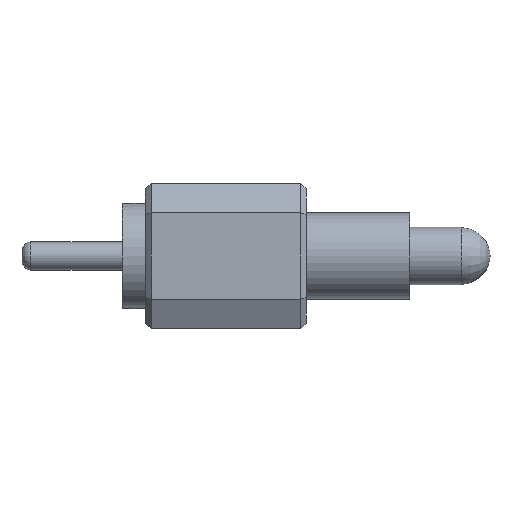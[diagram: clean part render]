
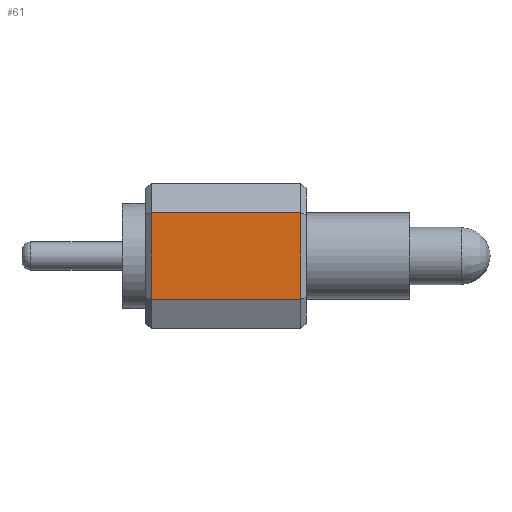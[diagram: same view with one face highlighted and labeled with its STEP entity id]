
A CAD part, front view. The second image highlights one B-rep face of the part: STEP entity #61.
In plain terms, the highlighted planar face has unit normal (0, -1, 0).
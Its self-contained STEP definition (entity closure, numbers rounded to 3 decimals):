
#61 = ADVANCED_FACE('',(#62),#76,.F.);
#62 = FACE_BOUND('',#63,.F.);
#63 = EDGE_LOOP('',(#64,#99,#127,#155));
#64 = ORIENTED_EDGE('',*,*,#65,.T.);
#65 = EDGE_CURVE('',#66,#68,#70,.T.);
#66 = VERTEX_POINT('',#67);
#67 = CARTESIAN_POINT('',(0.5,-1.27,0.75));
#68 = VERTEX_POINT('',#69);
#69 = CARTESIAN_POINT('',(3.1,-1.27,0.75));
#70 = SURFACE_CURVE('',#71,(#75,#87),.PCURVE_S1.);
#71 = LINE('',#72,#73);
#72 = CARTESIAN_POINT('',(0.4,-1.27,0.75));
#73 = VECTOR('',#74,1.);
#74 = DIRECTION('',(1.,0.,0.));
#75 = PCURVE('',#76,#81);
#76 = PLANE('',#77);
#77 = AXIS2_PLACEMENT_3D('',#78,#79,#80);
#78 = CARTESIAN_POINT('',(0.4,-1.27,0.75));
#79 = DIRECTION('',(0.,1.,0.));
#80 = DIRECTION('',(0.,0.,-1.));
#81 = DEFINITIONAL_REPRESENTATION('',(#82),#86);
#82 = LINE('',#83,#84);
#83 = CARTESIAN_POINT('',(0.,0.));
#84 = VECTOR('',#85,1.);
#85 = DIRECTION('',(0.,-1.));
#86 = ( GEOMETRIC_REPRESENTATION_CONTEXT(2) 
PARAMETRIC_REPRESENTATION_CONTEXT() REPRESENTATION_CONTEXT('2D SPACE',''
  ) );
#87 = PCURVE('',#88,#93);
#88 = PLANE('',#89);
#89 = AXIS2_PLACEMENT_3D('',#90,#91,#92);
#90 = CARTESIAN_POINT('',(0.4,-1.,1.27));
#91 = DIRECTION('',(0.,0.887,-0.461));
#92 = DIRECTION('',(0.,-0.461,-0.887));
#93 = DEFINITIONAL_REPRESENTATION('',(#94),#98);
#94 = LINE('',#95,#96);
#95 = CARTESIAN_POINT('',(0.586,0.));
#96 = VECTOR('',#97,1.);
#97 = DIRECTION('',(0.,-1.));
#98 = ( GEOMETRIC_REPRESENTATION_CONTEXT(2) 
PARAMETRIC_REPRESENTATION_CONTEXT() REPRESENTATION_CONTEXT('2D SPACE',''
  ) );
#99 = ORIENTED_EDGE('',*,*,#100,.T.);
#100 = EDGE_CURVE('',#68,#101,#103,.T.);
#101 = VERTEX_POINT('',#102);
#102 = CARTESIAN_POINT('',(3.1,-1.27,-0.75));
#103 = SURFACE_CURVE('',#104,(#108,#115),.PCURVE_S1.);
#104 = LINE('',#105,#106);
#105 = CARTESIAN_POINT('',(3.1,-1.27,0.75));
#106 = VECTOR('',#107,1.);
#107 = DIRECTION('',(0.,0.,-1.));
#108 = PCURVE('',#76,#109);
#109 = DEFINITIONAL_REPRESENTATION('',(#110),#114);
#110 = LINE('',#111,#112);
#111 = CARTESIAN_POINT('',(0.,-2.7));
#112 = VECTOR('',#113,1.);
#113 = DIRECTION('',(1.,0.));
#114 = ( GEOMETRIC_REPRESENTATION_CONTEXT(2) 
PARAMETRIC_REPRESENTATION_CONTEXT() REPRESENTATION_CONTEXT('2D SPACE',''
  ) );
#115 = PCURVE('',#116,#121);
#116 = PLANE('',#117);
#117 = AXIS2_PLACEMENT_3D('',#118,#119,#120);
#118 = CARTESIAN_POINT('',(3.15,-1.22,0.75));
#119 = DIRECTION('',(-0.707,0.707,0.));
#120 = DIRECTION('',(0.,0.,1.));
#121 = DEFINITIONAL_REPRESENTATION('',(#122),#126);
#122 = LINE('',#123,#124);
#123 = CARTESIAN_POINT('',(0.,-0.071));
#124 = VECTOR('',#125,1.);
#125 = DIRECTION('',(-1.,0.));
#126 = ( GEOMETRIC_REPRESENTATION_CONTEXT(2) 
PARAMETRIC_REPRESENTATION_CONTEXT() REPRESENTATION_CONTEXT('2D SPACE',''
  ) );
#127 = ORIENTED_EDGE('',*,*,#128,.F.);
#128 = EDGE_CURVE('',#129,#101,#131,.T.);
#129 = VERTEX_POINT('',#130);
#130 = CARTESIAN_POINT('',(0.5,-1.27,-0.75));
#131 = SURFACE_CURVE('',#132,(#136,#143),.PCURVE_S1.);
#132 = LINE('',#133,#134);
#133 = CARTESIAN_POINT('',(0.4,-1.27,-0.75));
#134 = VECTOR('',#135,1.);
#135 = DIRECTION('',(1.,0.,0.));
#136 = PCURVE('',#76,#137);
#137 = DEFINITIONAL_REPRESENTATION('',(#138),#142);
#138 = LINE('',#139,#140);
#139 = CARTESIAN_POINT('',(1.5,0.));
#140 = VECTOR('',#141,1.);
#141 = DIRECTION('',(0.,-1.));
#142 = ( GEOMETRIC_REPRESENTATION_CONTEXT(2) 
PARAMETRIC_REPRESENTATION_CONTEXT() REPRESENTATION_CONTEXT('2D SPACE',''
  ) );
#143 = PCURVE('',#144,#149);
#144 = PLANE('',#145);
#145 = AXIS2_PLACEMENT_3D('',#146,#147,#148);
#146 = CARTESIAN_POINT('',(0.4,-1.27,-0.75));
#147 = DIRECTION('',(0.,0.887,0.461));
#148 = DIRECTION('',(0.,0.461,-0.887));
#149 = DEFINITIONAL_REPRESENTATION('',(#150),#154);
#150 = LINE('',#151,#152);
#151 = CARTESIAN_POINT('',(0.,0.));
#152 = VECTOR('',#153,1.);
#153 = DIRECTION('',(0.,-1.));
#154 = ( GEOMETRIC_REPRESENTATION_CONTEXT(2) 
PARAMETRIC_REPRESENTATION_CONTEXT() REPRESENTATION_CONTEXT('2D SPACE',''
  ) );
#155 = ORIENTED_EDGE('',*,*,#156,.F.);
#156 = EDGE_CURVE('',#66,#129,#157,.T.);
#157 = SURFACE_CURVE('',#158,(#162,#169),.PCURVE_S1.);
#158 = LINE('',#159,#160);
#159 = CARTESIAN_POINT('',(0.5,-1.27,0.75));
#160 = VECTOR('',#161,1.);
#161 = DIRECTION('',(0.,0.,-1.));
#162 = PCURVE('',#76,#163);
#163 = DEFINITIONAL_REPRESENTATION('',(#164),#168);
#164 = LINE('',#165,#166);
#165 = CARTESIAN_POINT('',(0.,-0.1));
#166 = VECTOR('',#167,1.);
#167 = DIRECTION('',(1.,0.));
#168 = ( GEOMETRIC_REPRESENTATION_CONTEXT(2) 
PARAMETRIC_REPRESENTATION_CONTEXT() REPRESENTATION_CONTEXT('2D SPACE',''
  ) );
#169 = PCURVE('',#170,#175);
#170 = PLANE('',#171);
#171 = AXIS2_PLACEMENT_3D('',#172,#173,#174);
#172 = CARTESIAN_POINT('',(0.45,-1.22,0.75));
#173 = DIRECTION('',(-0.707,-0.707,-0.));
#174 = DIRECTION('',(0.,0.,1.));
#175 = DEFINITIONAL_REPRESENTATION('',(#176),#180);
#176 = LINE('',#177,#178);
#177 = CARTESIAN_POINT('',(0.,-0.071));
#178 = VECTOR('',#179,1.);
#179 = DIRECTION('',(-1.,0.));
#180 = ( GEOMETRIC_REPRESENTATION_CONTEXT(2) 
PARAMETRIC_REPRESENTATION_CONTEXT() REPRESENTATION_CONTEXT('2D SPACE',''
  ) );
